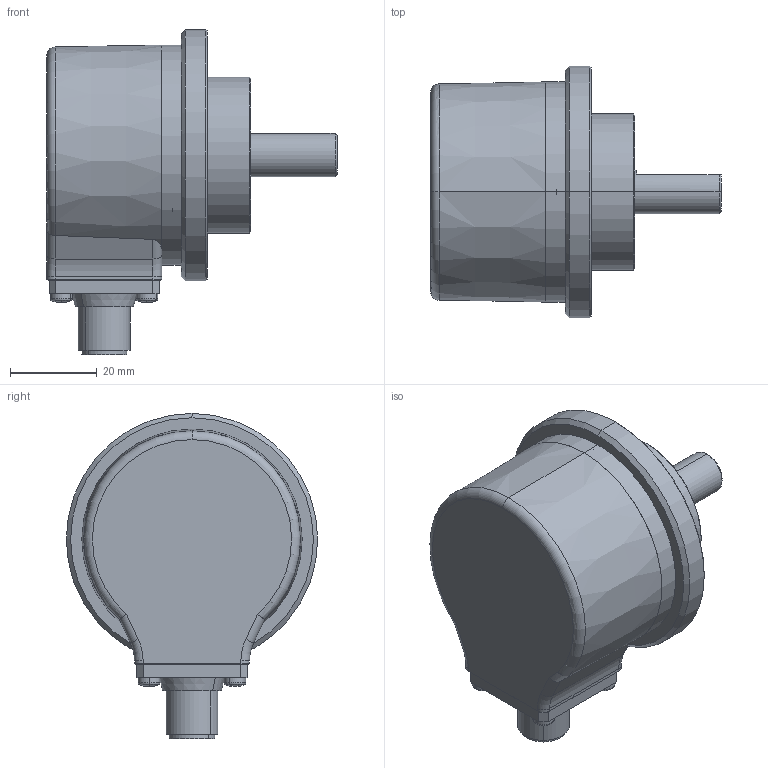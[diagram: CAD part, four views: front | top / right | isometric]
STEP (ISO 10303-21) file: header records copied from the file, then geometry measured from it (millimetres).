
FILE_DESCRIPTION (( 'STEP AP214' ), '1' );
FILE_NAME ('5000.83X4.XXXX.STEP', '2009-09-24T08:15:32', ( 'admin' ), ( 'Fritz Kübler GmbH' ), 'SwSTEP 2.0', 'SolidWorks 2009', '' );
FILE_SCHEMA (( 'AUTOMOTIVE_DESIGN' ));
Length unit declared in the file: millimetre
Products named in the file (1): 5000.83X4.XXXX
Bounding box: 67 x 58 x 75 mm (x, y, z)
Volume: 51641.2 mm3; surface area: 33674.9 mm2
Topology: 9 solids, 10 shells, 497 faces, 1208 edges, 731 vertices
Faces by surface type: cylinder 152, plane 149, cone 81, torus 57, sphere 48, bspline 10
Entity records: 20475 total; most frequent: CARTESIAN_POINT 3513, DIRECTION 2572, ORIENTED_EDGE 2220, EDGE_CURVE 1110, AXIS2_PLACEMENT_3D 1070, VERTEX_POINT 685, EDGE_LOOP 585, CIRCLE 582
